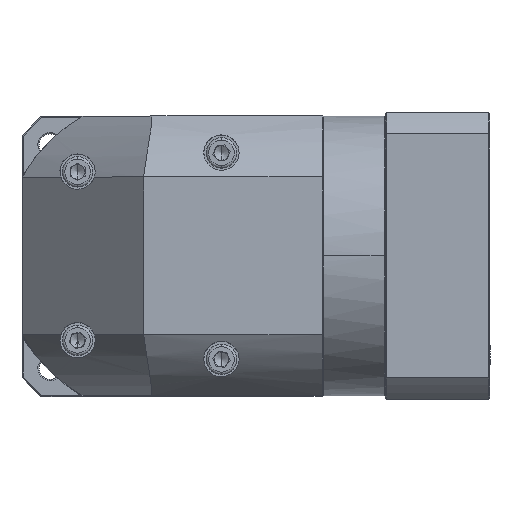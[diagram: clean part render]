
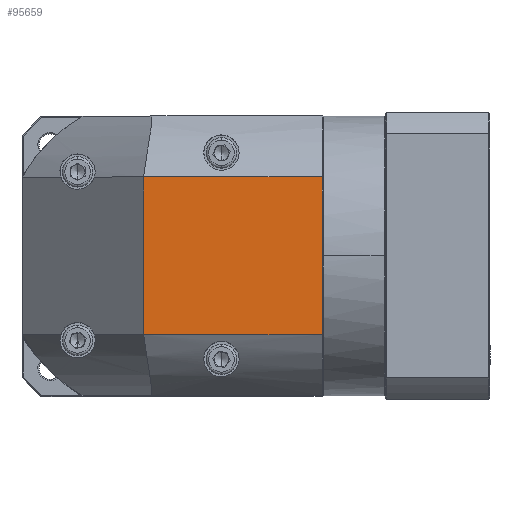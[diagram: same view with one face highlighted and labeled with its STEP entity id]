
A CAD part, top view. The second image highlights one B-rep face of the part: STEP entity #95659.
In plain terms, the highlighted planar face has unit normal (0, 0, 1).
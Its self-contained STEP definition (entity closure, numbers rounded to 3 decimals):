
#3260 = CARTESIAN_POINT ( 'NONE',  ( 32.98, 30.453, 71.064 ) ) ;
#8229 = DIRECTION ( 'NONE',  ( -1., 0., 0. ) ) ;
#8821 = LINE ( 'NONE', #17485, #98615 ) ;
#13118 = VERTEX_POINT ( 'NONE', #17752 ) ;
#17485 = CARTESIAN_POINT ( 'NONE',  ( -17.02, 30.453, 71.064 ) ) ;
#17752 = CARTESIAN_POINT ( 'NONE',  ( 106.38, 95.253, 71.064 ) ) ;
#18070 = CARTESIAN_POINT ( 'NONE',  ( -17.02, 95.253, 71.064 ) ) ;
#24767 = ORIENTED_EDGE ( 'NONE', *, *, #125474, .F. ) ;
#28972 = PLANE ( 'NONE',  #115359 ) ;
#29326 = EDGE_CURVE ( 'NONE', #137648, #135184, #64223, .T. ) ;
#40343 = VERTEX_POINT ( 'NONE', #66428 ) ;
#42116 = FACE_OUTER_BOUND ( 'NONE', #72299, .T. ) ;
#45840 = DIRECTION ( 'NONE',  ( 0., -1., 0. ) ) ;
#51493 = DIRECTION ( 'NONE',  ( 1., 0., 0. ) ) ;
#62366 = DIRECTION ( 'NONE',  ( 0., -1., 0. ) ) ;
#64223 = LINE ( 'NONE', #86639, #84233 ) ;
#66428 = CARTESIAN_POINT ( 'NONE',  ( 106.38, 30.453, 71.064 ) ) ;
#66729 = CARTESIAN_POINT ( 'NONE',  ( 106.38, 120.353, 71.064 ) ) ;
#69009 = ORIENTED_EDGE ( 'NONE', *, *, #29326, .F. ) ;
#72299 = EDGE_LOOP ( 'NONE', ( #84635, #69009, #89428, #24767 ) ) ;
#73013 = VECTOR ( 'NONE', #45840, 1000. ) ;
#83751 = DIRECTION ( 'NONE',  ( 0., 0., -1. ) ) ;
#84233 = VECTOR ( 'NONE', #128030, 1000. ) ;
#84635 = ORIENTED_EDGE ( 'NONE', *, *, #93275, .F. ) ;
#86639 = CARTESIAN_POINT ( 'NONE',  ( 32.98, 120.353, 71.064 ) ) ;
#89428 = ORIENTED_EDGE ( 'NONE', *, *, #133967, .F. ) ;
#92420 = VECTOR ( 'NONE', #51493, 1000. ) ;
#93275 = EDGE_CURVE ( 'NONE', #135184, #13118, #120761, .T. ) ;
#95659 = ADVANCED_FACE ( 'NONE', ( #42116 ), #28972, .F. ) ;
#98615 = VECTOR ( 'NONE', #8229, 1000. ) ;
#115359 = AXIS2_PLACEMENT_3D ( 'NONE', #124268, #83751, #62366 ) ;
#120761 = LINE ( 'NONE', #18070, #92420 ) ;
#124268 = CARTESIAN_POINT ( 'NONE',  ( 40.48, 62.853, 71.064 ) ) ;
#124711 = LINE ( 'NONE', #66729, #73013 ) ;
#125474 = EDGE_CURVE ( 'NONE', #13118, #40343, #124711, .T. ) ;
#125658 = CARTESIAN_POINT ( 'NONE',  ( 32.98, 95.253, 71.064 ) ) ;
#128030 = DIRECTION ( 'NONE',  ( 0., 1., 0. ) ) ;
#133967 = EDGE_CURVE ( 'NONE', #40343, #137648, #8821, .T. ) ;
#135184 = VERTEX_POINT ( 'NONE', #125658 ) ;
#137648 = VERTEX_POINT ( 'NONE', #3260 ) ;
